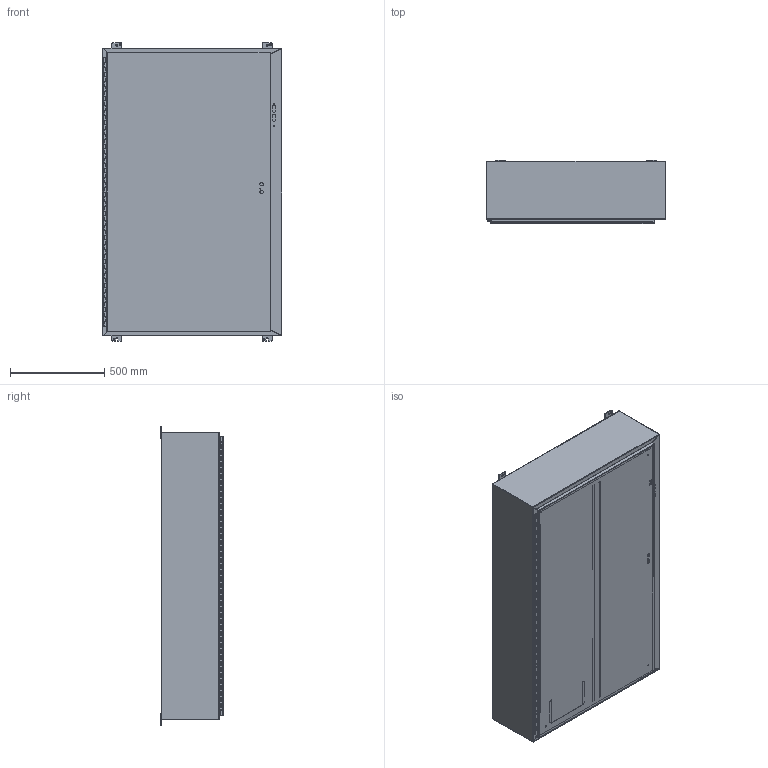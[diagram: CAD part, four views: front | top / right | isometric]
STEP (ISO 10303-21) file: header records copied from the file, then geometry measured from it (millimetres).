
FILE_DESCRIPTION( ( 'Unknown' ), '1' );
FILE_NAME( 'S:/STOCK/3-DISCONNECT/1447S/1447SL12.stp', 'Unknown', ( 'Unknown' ), ( 'Unknown' ), 'PSStep 15.0.49', 'Unknown', ' ' );
FILE_SCHEMA( ( 'AUTOMOTIVE_DESIGN { 1 0 10303 214 1 1 1 1 }' ) );
Length unit declared in the file: millimetre
Products named in the file (22): COM56264; STD26057; STD21874; STD21878; COM70235-56C; COM55702-53; Assem1; COM55702-9; COM55702-99; STD26094; FET07710; COM70219_1447L; COM42172; COM70012; COM70010; COM70014; PKT99; COM54932; HNG10620-56P; NTS17050; HNG10610-56B
Assembly tree (36 placements, depth 3):
  Assem1
    STD21878
    COM55702-9
    COM55702-99  x2
    STD26094  x8
    FET07710  x4
    COM70219_1447L
    COM42172
    COM70012
    COM70010
    COM70014
    PKT99
    COM54932
    HNG10620-56P
    NTS17050  x2
    HNG10610-56B
    COM56264
      STD26057  x2
      STD21874  x2
      STD21878
      COM56264
      COM70235-56C
      COM55702-53
Bounding box: 949.33 x 331.78 x 1581.15 mm (x, y, z)
Volume: 12670372.1 mm3; surface area: 12885399.7 mm2
Topology: 35 solids, 35 shells, 1201 faces, 3125 edges, 2026 vertices
Faces by surface type: plane 747, cylinder 370, bspline 36, torus 34, cone 12, sphere 2
Full cylindrical faces by diameter (mm): 3.967 x2, 4.763 x1, 4.775 x2, 5.537 x1, 6.35 x4, 7.137 x2, 7.938 x8, 8.382 x8, 8.433 x4, 9.525 x8, 11.113 x4, 12.7 x8, 16.51 x10, 17.856 x2, 88.9 x1
Entity records: 31981 total; most frequent: CARTESIAN_POINT 6175, ORIENTED_EDGE 4818, DIRECTION 4750, EDGE_CURVE 2409, LINE 1748, VECTOR 1748, VERTEX_POINT 1581, AXIS2_PLACEMENT_3D 1501
